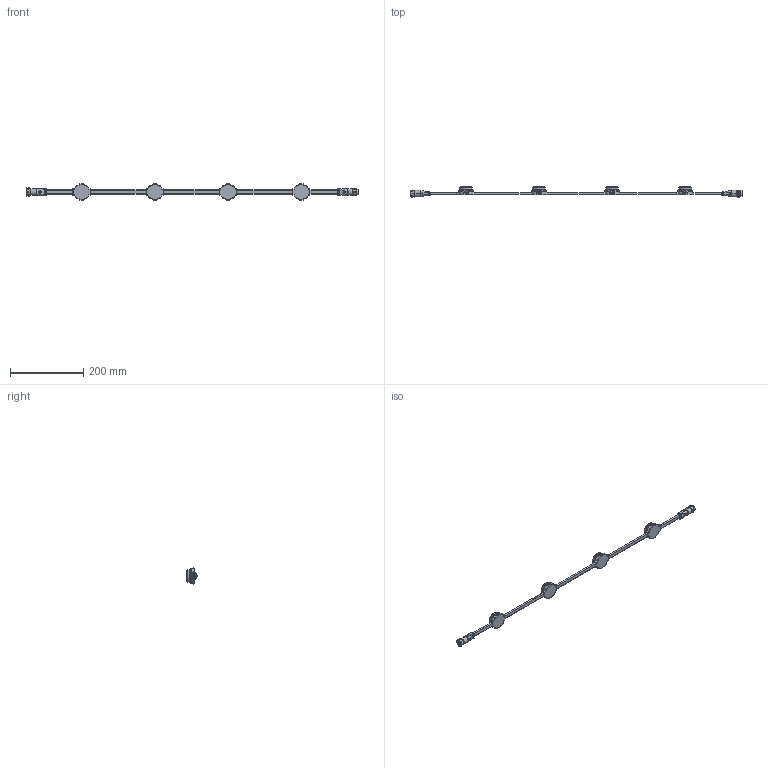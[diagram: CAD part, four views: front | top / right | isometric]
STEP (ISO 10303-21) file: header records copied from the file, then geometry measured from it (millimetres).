
FILE_DESCRIPTION (( 'STEP AP214' ), '1' );
FILE_NAME ('DiGi XT3 & 6 - Flat.STEP', '2025-11-13T13:06:40', ( '' ), ( '' ), 'SwSTEP 2.0', 'SolidWorks 2025', '' );
FILE_SCHEMA (( 'AUTOMOTIVE_DESIGN' ));
Length unit declared in the file: millimetre
Products named in the file (6): DiGi Module XT3 & 6 - Cover - Flat; M16 5p Flat mold - Male; M16 5p Flat mold - Female; DiGi XT3 & 6 - Flat; Part9^DiGi XT3 & 6; DiGi Module XT3 & 6 - Body_XT3 RGBW
Assembly tree (11 placements, depth 2):
  DiGi XT3 & 6 - Flat
    DiGi Module XT3 & 6 - Body_XT3 RGBW  x4
    Part9^DiGi XT3 & 6
    M16 5p Flat mold - Female
    M16 5p Flat mold - Male
    DiGi Module XT3 & 6 - Cover - Flat  x4
Bounding box: 907.71 x 27.76 x 43.79 mm (x, y, z)
Volume: 159139.6 mm3; surface area: 63537.1 mm2
Topology: 31 solids, 31 shells, 2651 faces, 6274 edges, 3664 vertices
Faces by surface type: bspline 1064, plane 641, cylinder 617, cone 200, sphere 78, torus 51
Full cylindrical faces by diameter (mm): 9.2 x1, 11.1 x1, 11.8 x1, 14.25 x1, 14.8 x1, 15.2 x1, 31.6 x4, 32 x4, 42 x4
Entity records: 94511 total; most frequent: CARTESIAN_POINT 53216, ORIENTED_EDGE 6188, DIRECTION 4438, EDGE_CURVE 3094, VERTEX_POINT 1860, AXIS2_PLACEMENT_3D 1744, EDGE_LOOP 1420, UNCERTAINTY_MEASURE_WITH_UNIT 1356
